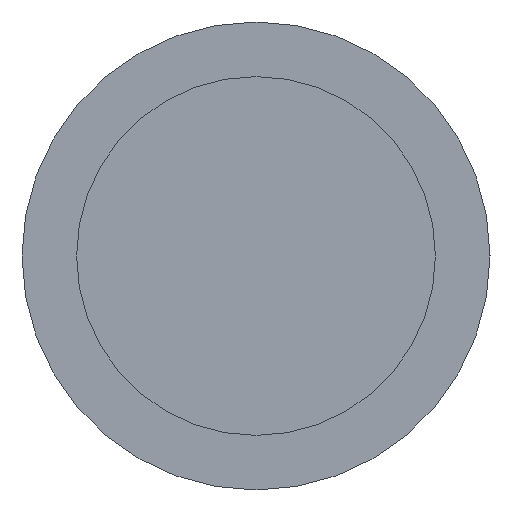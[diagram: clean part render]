
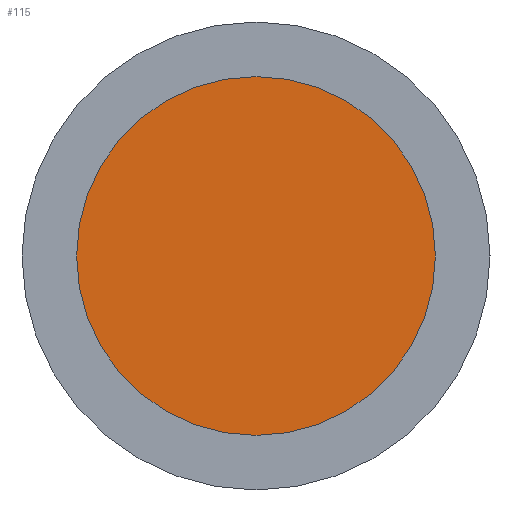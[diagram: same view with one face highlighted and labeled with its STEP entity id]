
A CAD part, left-side view. The second image highlights one B-rep face of the part: STEP entity #115.
In plain terms, the highlighted planar face has unit normal (-1, 0, 0).
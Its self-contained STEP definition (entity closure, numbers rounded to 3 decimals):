
#23=ORIENTED_EDGE('',*,*,#33,.F.);
#33=EDGE_CURVE('',#38,#38,#43,.T.);
#38=VERTEX_POINT('',#164);
#43=CIRCLE('',#127,1.15);
#48=EDGE_LOOP('',(#23));
#58=FACE_BOUND('',#48,.T.);
#68=PLANE('',#126);
#115=ADVANCED_FACE('',(#58),#68,.F.);
#126=AXIS2_PLACEMENT_3D('',#162,#139,#140);
#127=AXIS2_PLACEMENT_3D('',#163,#141,#142);
#139=DIRECTION('',(1.,0.,0.));
#140=DIRECTION('',(0.,0.,-1.));
#141=DIRECTION('',(1.,0.,0.));
#142=DIRECTION('',(0.,0.,-1.));
#162=CARTESIAN_POINT('',(-14.,0.,0.));
#163=CARTESIAN_POINT('',(-14.,0.,0.));
#164=CARTESIAN_POINT('',(-14.,0.,-1.15));
